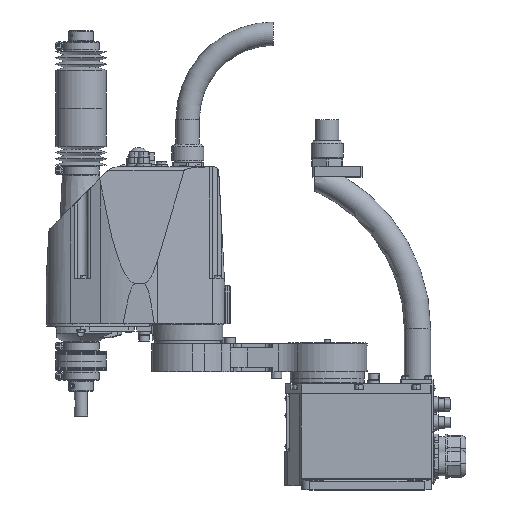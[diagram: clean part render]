
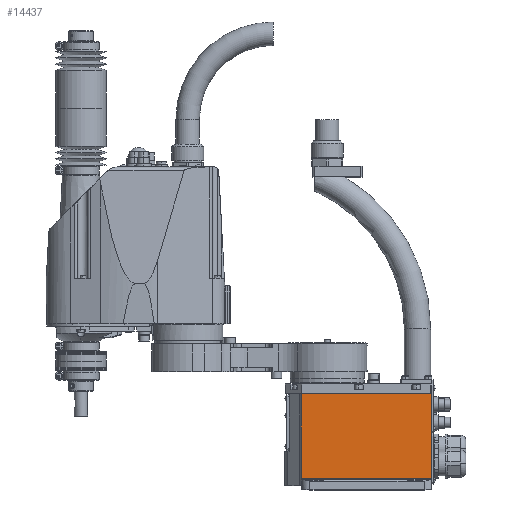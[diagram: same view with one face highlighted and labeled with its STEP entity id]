
A CAD part, top view. The second image highlights one B-rep face of the part: STEP entity #14437.
In plain terms, the highlighted planar face has unit normal (0, 0, 1).
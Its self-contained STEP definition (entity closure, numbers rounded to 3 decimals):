
#11113 = VERTEX_POINT( '', #30931 );
#13647 = EDGE_CURVE( '', #11113, #14477, #33802, .T. );
#13697 = EDGE_CURVE( '', #11113, #25917, #33860, .T. );
#14081 = EDGE_CURVE( '', #26277, #14477, #34295, .T. );
#14437 = ADVANCED_FACE( '', ( #34691 ), #34692, .T. );
#14477 = VERTEX_POINT( '', #34736 );
#15845 = EDGE_CURVE( '', #25917, #26277, #36266, .T. );
#25917 = VERTEX_POINT( '', #47495 );
#26277 = VERTEX_POINT( '', #47899 );
#30931 = CARTESIAN_POINT( '', ( -31.897, 117., 50.5 ) );
#33802 = LINE( '', #57551, #57552 );
#33860 = LINE( '', #57627, #57628 );
#34295 = LINE( '', #58278, #58279 );
#34691 = FACE_OUTER_BOUND( '', #58889, .T. );
#34692 = PLANE( '', #58890 );
#34736 = CARTESIAN_POINT( '', ( 127., 117., 50.5 ) );
#36266 = LINE( '', #61242, #61243 );
#47495 = CARTESIAN_POINT( '', ( -31.897, 14., 50.5 ) );
#47899 = CARTESIAN_POINT( '', ( 127., 14., 50.5 ) );
#57551 = CARTESIAN_POINT( '', ( -51.5, 117., 50.5 ) );
#57552 = VECTOR( '', #88990, 1. );
#57627 = CARTESIAN_POINT( '', ( -31.897, 65.5, 50.5 ) );
#57628 = VECTOR( '', #89070, 1. );
#58278 = CARTESIAN_POINT( '', ( 127., 117., 50.5 ) );
#58279 = VECTOR( '', #89645, 1. );
#58889 = EDGE_LOOP( '', ( #90059, #90060, #90061, #90062 ) );
#58890 = AXIS2_PLACEMENT_3D( '', #90063, #90064, #90065 );
#61242 = CARTESIAN_POINT( '', ( -51.5, 14., 50.5 ) );
#61243 = VECTOR( '', #91957, 1. );
#88990 = DIRECTION( '', ( 1., 0., 0. ) );
#89070 = DIRECTION( '', ( 0., -1., 0. ) );
#89645 = DIRECTION( '', ( 0., 1., 0. ) );
#90059 = ORIENTED_EDGE( '', *, *, #13697, .T. );
#90060 = ORIENTED_EDGE( '', *, *, #15845, .T. );
#90061 = ORIENTED_EDGE( '', *, *, #14081, .T. );
#90062 = ORIENTED_EDGE( '', *, *, #13647, .F. );
#90063 = CARTESIAN_POINT( '', ( -51.5, 14., 50.5 ) );
#90064 = DIRECTION( '', ( 0., 0., 1. ) );
#90065 = DIRECTION( '', ( 0., -1., 0. ) );
#91957 = DIRECTION( '', ( 1., 0., 0. ) );
